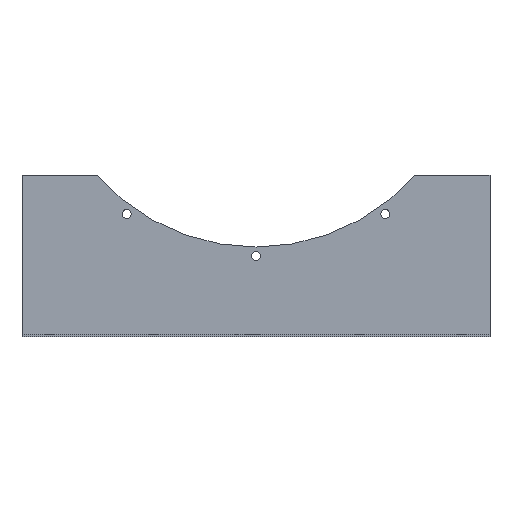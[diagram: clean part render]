
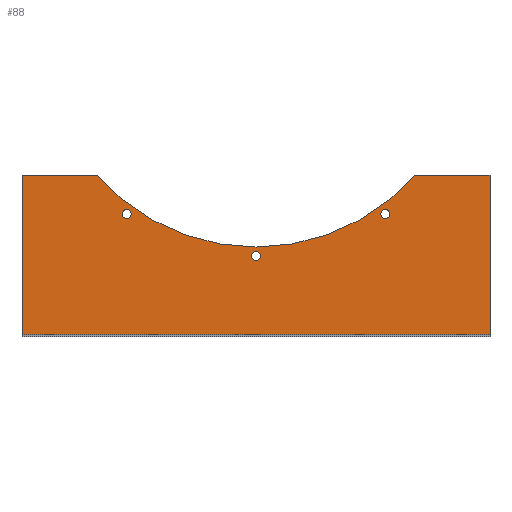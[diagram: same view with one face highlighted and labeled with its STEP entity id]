
A CAD part, top view. The second image highlights one B-rep face of the part: STEP entity #88.
In plain terms, the highlighted planar face has unit normal (0, 0, 1).
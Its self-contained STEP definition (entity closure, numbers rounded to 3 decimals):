
#88=ADVANCED_FACE('',(#179,#180,#181,#182),#183,.T.);
#179=FACE_BOUND('',#280,.T.);
#180=FACE_BOUND('',#281,.T.);
#181=FACE_BOUND('',#282,.T.);
#182=FACE_OUTER_BOUND('',#283,.T.);
#183=PLANE('',#284);
#280=EDGE_LOOP('',(#475,#476));
#281=EDGE_LOOP('',(#477,#478));
#282=EDGE_LOOP('',(#479,#480));
#283=EDGE_LOOP('',(#481,#482,#483,#484,#485,#486));
#284=AXIS2_PLACEMENT_3D('',#487,#488,#489);
#475=ORIENTED_EDGE('',*,*,#599,.T.);
#476=ORIENTED_EDGE('',*,*,#604,.T.);
#477=ORIENTED_EDGE('',*,*,#594,.T.);
#478=ORIENTED_EDGE('',*,*,#607,.T.);
#479=ORIENTED_EDGE('',*,*,#589,.T.);
#480=ORIENTED_EDGE('',*,*,#610,.T.);
#481=ORIENTED_EDGE('',*,*,#612,.T.);
#482=ORIENTED_EDGE('',*,*,#641,.F.);
#483=ORIENTED_EDGE('',*,*,#642,.F.);
#484=ORIENTED_EDGE('',*,*,#643,.F.);
#485=ORIENTED_EDGE('',*,*,#644,.F.);
#486=ORIENTED_EDGE('',*,*,#623,.F.);
#487=CARTESIAN_POINT('',(0.0,4.0,-26.0));
#488=DIRECTION('',(0.0,0.0,1.0));
#489=DIRECTION('',(1.0,0.0,0.0));
#589=EDGE_CURVE('',#709,#706,#710,.T.);
#594=EDGE_CURVE('',#718,#715,#719,.T.);
#599=EDGE_CURVE('',#727,#724,#728,.T.);
#604=EDGE_CURVE('',#724,#727,#734,.T.);
#607=EDGE_CURVE('',#715,#718,#737,.T.);
#610=EDGE_CURVE('',#706,#709,#740,.T.);
#612=EDGE_CURVE('',#742,#743,#744,.T.);
#623=EDGE_CURVE('',#742,#761,#762,.T.);
#641=EDGE_CURVE('',#780,#743,#781,.T.);
#642=EDGE_CURVE('',#782,#780,#783,.T.);
#643=EDGE_CURVE('',#784,#782,#785,.T.);
#644=EDGE_CURVE('',#761,#784,#786,.T.);
#706=VERTEX_POINT('',#862);
#709=VERTEX_POINT('',#866);
#710=CIRCLE('',#867,8.0);
#715=VERTEX_POINT('',#873);
#718=VERTEX_POINT('',#877);
#719=CIRCLE('',#878,8.0);
#724=VERTEX_POINT('',#884);
#727=VERTEX_POINT('',#888);
#728=CIRCLE('',#889,8.0);
#734=CIRCLE('',#896,8.0);
#737=CIRCLE('',#899,8.0);
#740=CIRCLE('',#902,8.0);
#742=VERTEX_POINT('',#904);
#743=VERTEX_POINT('',#905);
#744=CIRCLE('',#906,379.0);
#761=VERTEX_POINT('',#930);
#762=LINE('',#931,#932);
#780=VERTEX_POINT('',#951);
#781=LINE('',#952,#953);
#782=VERTEX_POINT('',#954);
#783=LINE('',#955,#956);
#784=VERTEX_POINT('',#957);
#785=LINE('',#958,#959);
#786=LINE('',#960,#961);
#862=CARTESIAN_POINT('',(8.0,0.,-26.0));
#866=CARTESIAN_POINT('',(-8.0,0.,-26.0));
#867=AXIS2_PLACEMENT_3D('',#1031,#1032,#1033);
#873=CARTESIAN_POINT('',(238.647,80.141,-26.0));
#877=CARTESIAN_POINT('',(225.703,70.736,-26.0));
#878=AXIS2_PLACEMENT_3D('',#1039,#1040,#1041);
#884=CARTESIAN_POINT('',(-225.703,70.736,-26.0));
#888=CARTESIAN_POINT('',(-238.647,80.141,-26.0));
#889=AXIS2_PLACEMENT_3D('',#1047,#1048,#1049);
#896=AXIS2_PLACEMENT_3D('',#1057,#1058,#1059);
#899=AXIS2_PLACEMENT_3D('',#1063,#1064,#1065);
#902=AXIS2_PLACEMENT_3D('',#1069,#1070,#1071);
#904=CARTESIAN_POINT('',(284.853,145.0,-26.0));
#905=CARTESIAN_POINT('',(-284.853,145.0,-26.0));
#906=AXIS2_PLACEMENT_3D('',#1072,#1073,#1074);
#930=CARTESIAN_POINT('',(420.0,145.0,-26.0));
#931=CARTESIAN_POINT('',(0.0,145.0,-26.0));
#932=VECTOR('',#1085,1.0);
#951=CARTESIAN_POINT('',(-420.0,145.0,-26.0));
#952=CARTESIAN_POINT('',(0.0,145.0,-26.0));
#953=VECTOR('',#1117,1.0);
#954=CARTESIAN_POINT('',(-420.0,-141.0,-26.0));
#955=CARTESIAN_POINT('',(-420.0,2.0,-26.0));
#956=VECTOR('',#1118,1.0);
#957=CARTESIAN_POINT('',(420.0,-141.0,-26.0));
#958=CARTESIAN_POINT('',(0.0,-141.0,-26.0));
#959=VECTOR('',#1119,1.0);
#960=CARTESIAN_POINT('',(420.0,2.0,-26.0));
#961=VECTOR('',#1120,1.0);
#1031=CARTESIAN_POINT('',(0.0,0.0,-26.0));
#1032=DIRECTION('',(0.0,0.0,-1.0));
#1033=DIRECTION('',(1.0,0.0,0.0));
#1039=CARTESIAN_POINT('',(232.175,75.438,-26.0));
#1040=DIRECTION('',(0.0,0.0,-1.0));
#1041=DIRECTION('',(0.809,0.588,0.0));
#1047=CARTESIAN_POINT('',(-232.175,75.438,-26.0));
#1048=DIRECTION('',(0.0,-0.0,-1.0));
#1049=DIRECTION('',(0.809,-0.588,0.0));
#1057=CARTESIAN_POINT('',(-232.175,75.438,-26.0));
#1058=DIRECTION('',(0.0,-0.0,-1.0));
#1059=DIRECTION('',(0.809,-0.588,0.0));
#1063=CARTESIAN_POINT('',(232.175,75.438,-26.0));
#1064=DIRECTION('',(0.0,0.0,-1.0));
#1065=DIRECTION('',(0.809,0.588,0.0));
#1069=CARTESIAN_POINT('',(0.0,0.0,-26.0));
#1070=DIRECTION('',(0.0,0.0,-1.0));
#1071=DIRECTION('',(1.0,0.0,0.0));
#1072=CARTESIAN_POINT('',(0.0,395.0,-26.0));
#1073=DIRECTION('',(0.0,0.0,-1.0));
#1074=DIRECTION('',(1.0,0.0,0.0));
#1085=DIRECTION('',(1.0,0.0,-0.0));
#1117=DIRECTION('',(1.0,0.0,-0.0));
#1118=DIRECTION('',(0.0,1.0,0.0));
#1119=DIRECTION('',(-1.0,0.0,0.0));
#1120=DIRECTION('',(0.0,-1.0,0.0));
